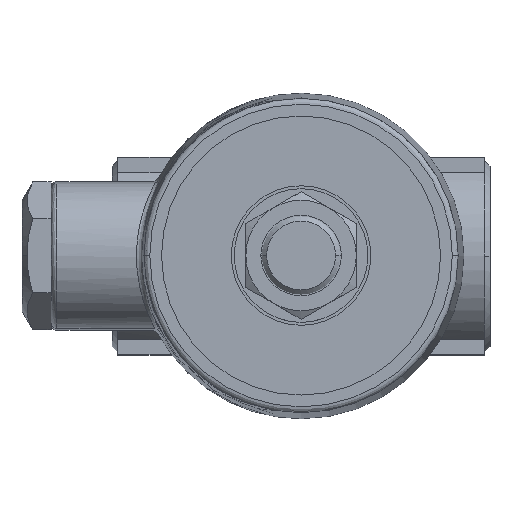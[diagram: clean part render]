
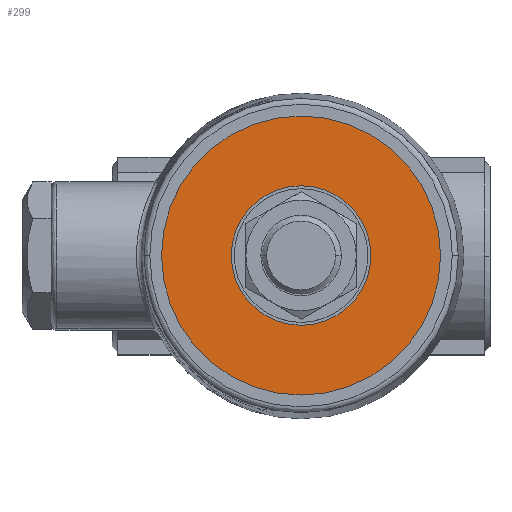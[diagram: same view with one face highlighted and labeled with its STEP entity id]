
A CAD part, top view. The second image highlights one B-rep face of the part: STEP entity #299.
In plain terms, the highlighted planar face has unit normal (0, 0, 1).
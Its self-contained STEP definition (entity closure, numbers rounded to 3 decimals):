
#299=ADVANCED_FACE('',(#1464,#1465),#1463,.F.);
#1463=PLANE('',#2672);
#1464=FACE_OUTER_BOUND('',#2673,.T.);
#1465=FACE_BOUND('',#2674,.T.);
#2669=CARTESIAN_POINT('',(55.2,-49.883,96.));
#2670=DIRECTION('',(0.,0.,-1.));
#2671=DIRECTION('',(-1.,0.,0.));
#2672=AXIS2_PLACEMENT_3D('',#2669,#2670,#2671);
#2673=EDGE_LOOP('',(#3334,#3335));
#2674=EDGE_LOOP('',(#3336,#3337));
#3334=ORIENTED_EDGE('',*,*,#3699,.F.);
#3335=ORIENTED_EDGE('',*,*,#3700,.F.);
#3336=ORIENTED_EDGE('',*,*,#3701,.T.);
#3337=ORIENTED_EDGE('',*,*,#3702,.T.);
#3699=EDGE_CURVE('',#5556,#5557,#5558,.T.);
#3700=EDGE_CURVE('',#5557,#5556,#5564,.T.);
#3701=EDGE_CURVE('',#5570,#5571,#5572,.T.);
#3702=EDGE_CURVE('',#5571,#5570,#5578,.T.);
#5556=VERTEX_POINT('',#7133);
#5557=VERTEX_POINT('',#7134);
#5558=CIRCLE('',#7138,24.);
#5564=CIRCLE('',#7142,24.);
#5570=VERTEX_POINT('',#7143);
#5571=VERTEX_POINT('',#7144);
#5572=CIRCLE('',#7148,12.);
#5578=CIRCLE('',#7152,12.);
#7133=CARTESIAN_POINT('',(24.,0.,96.));
#7134=CARTESIAN_POINT('',(-24.,0.,96.));
#7135=CARTESIAN_POINT('',(0.,0.,96.));
#7136=DIRECTION('',(0.,0.,-1.));
#7137=DIRECTION('',(-1.,0.,0.));
#7138=AXIS2_PLACEMENT_3D('',#7135,#7136,#7137);
#7139=CARTESIAN_POINT('',(0.,0.,96.));
#7140=DIRECTION('',(0.,0.,-1.));
#7141=DIRECTION('',(-1.,0.,0.));
#7142=AXIS2_PLACEMENT_3D('',#7139,#7140,#7141);
#7143=CARTESIAN_POINT('',(-12.,0.,96.));
#7144=CARTESIAN_POINT('',(12.,0.,96.));
#7145=CARTESIAN_POINT('',(0.,0.,96.));
#7146=DIRECTION('',(0.,0.,-1.));
#7147=DIRECTION('',(-1.,0.,0.));
#7148=AXIS2_PLACEMENT_3D('',#7145,#7146,#7147);
#7149=CARTESIAN_POINT('',(0.,0.,96.));
#7150=DIRECTION('',(0.,0.,-1.));
#7151=DIRECTION('',(-1.,0.,0.));
#7152=AXIS2_PLACEMENT_3D('',#7149,#7150,#7151);
